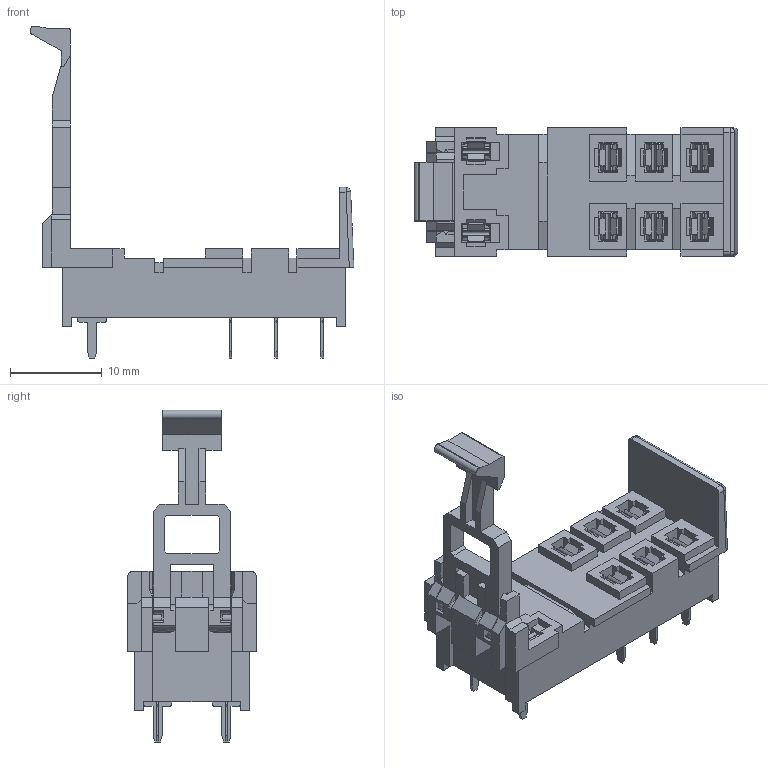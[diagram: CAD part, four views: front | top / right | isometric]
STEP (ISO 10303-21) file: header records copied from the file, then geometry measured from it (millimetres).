
FILE_DESCRIPTION (( 'STEP AP203' ), '1' );
FILE_NAME ('SRT08-P 俋倛.STEP', '2023-05-09T09:17:15', ( '' ), ( '' ), 'SwSTEP 2.0', 'SolidWorks 2018', '' );
FILE_SCHEMA (( 'CONFIG_CONTROL_DESIGN' ));
Length unit declared in the file: millimetre
Products named in the file (1): SRT08-P 俋倛
Bounding box: 35.3 x 14 x 36.2 mm (x, y, z)
Volume: 2289.3 mm3; surface area: 4534.4 mm2
Topology: 1 solids, 1 shells, 1379 faces, 4142 edges, 2722 vertices
Faces by surface type: plane 1013, cylinder 332, sphere 34
Entity records: 46493 total; most frequent: CARTESIAN_POINT 8680, ORIENTED_EDGE 8280, DIRECTION 7508, EDGE_CURVE 4140, VECTOR 3240, LINE 3240, VERTEX_POINT 2722, AXIS2_PLACEMENT_3D 2134
